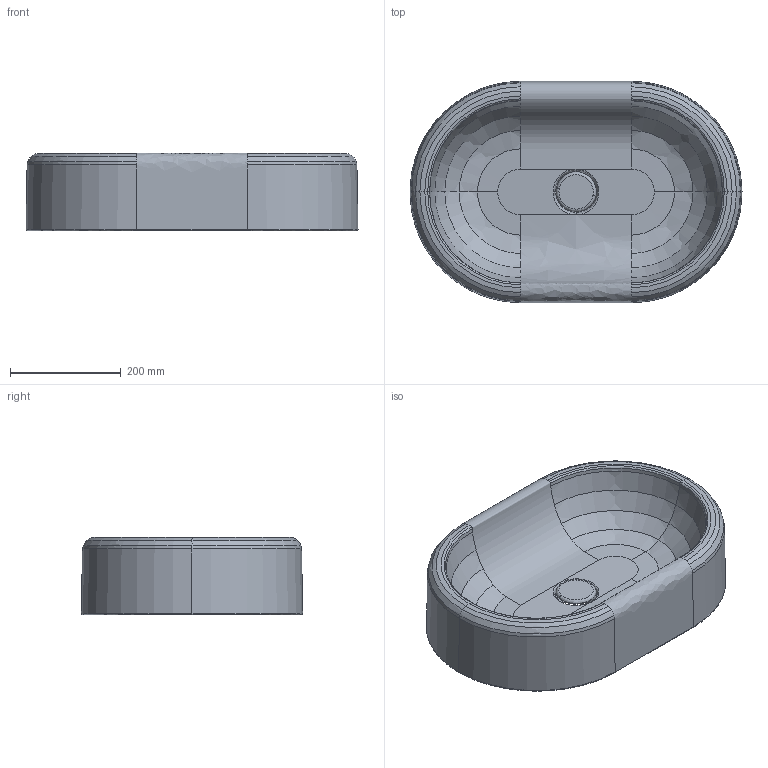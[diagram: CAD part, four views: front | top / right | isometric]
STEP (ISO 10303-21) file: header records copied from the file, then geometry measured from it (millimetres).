
FILE_DESCRIPTION(/* description */ (''),/* implementation_level */ '2;1');
FILE_NAME(/* name */ 'SDR RONDO'' OVALE',/* time_stamp */ '2026-05-08T15:08:29+02:00',/* author */ (''),/* organization */ (''),/* preprocessor_version */ 'ST-DEVELOPER v19.2',/* originating_system */ 'Rhino 8.30',/* authorisation */ '');
FILE_SCHEMA (('CONFIG_CONTROL_DESIGN'));
Length unit declared in the file: millimetre
Products named in the file (1): Document
Bounding box: 599.93 x 399.93 x 140 mm (x, y, z)
Volume: 23251.6 mm3; surface area: 718617.9 mm2
Topology: 1 solids, 2 shells, 80 faces, 195 edges, 114 vertices
Faces by surface type: bspline 68, cylinder 8, plane 4
Entity records: 3628 total; most frequent: CARTESIAN_POINT 2013, ORIENTED_EDGE 382, DIRECTION 198, EDGE_CURVE 195, VERTEX_POINT 114, AXIS2_PLACEMENT_3D 105, B_SPLINE_CURVE_WITH_KNOTS 95, TRIMMED_CURVE 90
